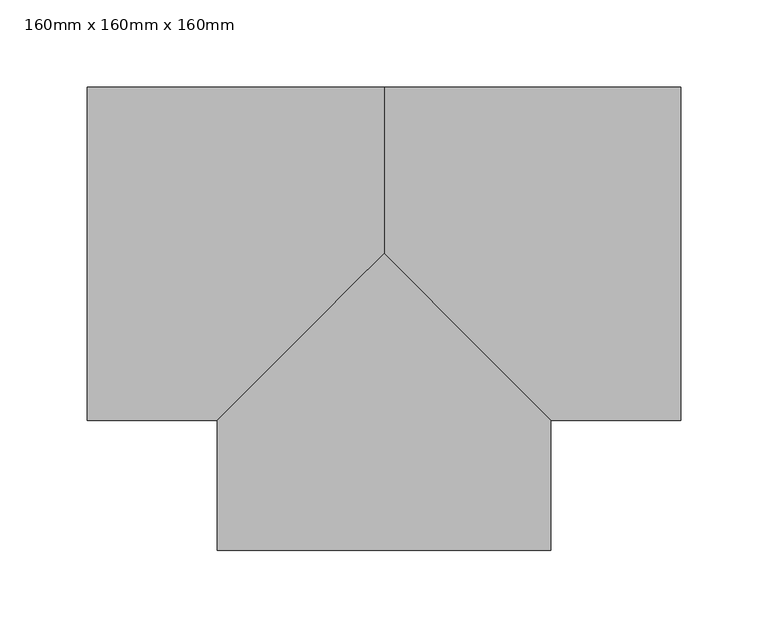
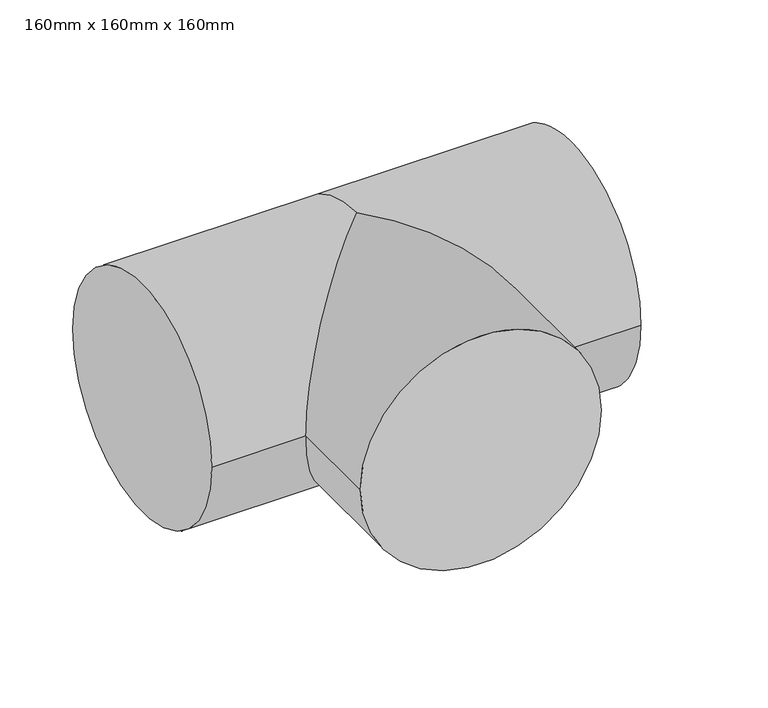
"""IFC4 building model written with IfcOpenShell, lengths in millimetres: pipe fitting geometry, PipeFitting_HTA_CPVC_Tees90° : 160mm x 160mm x 160mm."""

import ifcopenshell
import ifcopenshell.guid

model = None  # the IFC model being written
_history = None  # IfcOwnerHistory: only IFC2X3 demands one
_inside = {}  # id of a spatial element -> (the spatial element, [elements in it])
_under = {}  # id of a project, library or spatial element -> (it, [spatial elements below it])
_declared = {}  # id of a project -> (the project, [libraries it declares])
_typed = {}  # id of a type object -> (the type object, [elements of that type])
_made_of = {}  # id of a material, layer set ... -> (it, [elements and type objects made of it])


def new_model(schema):
    """Start an empty IFC model of exactly this schema.

    Asked for "IFC4X3", IfcOpenShell would pick the latest addendum, in which some entities
    have other attributes; the version numbers below select the first issue.
    IFC2X3 requires an IfcOwnerHistory on every rooted entity: one is made here for all.
    """
    global model, _history
    if schema == "IFC4X3":
        model = ifcopenshell.file(schema_version=(4, 3, 0, 0))
    else:
        model = ifcopenshell.file(schema=schema)
    _inside.clear()
    _under.clear()
    _declared.clear()
    _typed.clear()
    _made_of.clear()
    _history = None
    if model.schema == "IFC2X3":
        org = make("IfcOrganization", Name="unknown")
        user = make(
            "IfcPersonAndOrganization",
            ThePerson=make("IfcPerson", FamilyName="unknown"),
            TheOrganization=org,
        )
        app = make(
            "IfcApplication",
            ApplicationDeveloper=org,
            Version="unknown",
            ApplicationFullName="unknown",
            ApplicationIdentifier="unknown",
        )
        _history = make(
            "IfcOwnerHistory",
            OwningUser=user,
            OwningApplication=app,
            ChangeAction="ADDED",
            CreationDate=0,
        )
    return model


def make(cls, **values):
    """One entity of the class cls with the attributes given. An attribute that is None is left unset."""
    return model.create_entity(
        cls, **{name: value for name, value in values.items() if value is not None}
    )


def rooted(cls, **values):
    """An entity with a GlobalId (a new one), such as an element, a storey or a relation."""
    return make(cls, GlobalId=ifcopenshell.guid.new(), OwnerHistory=_history, **values)


def si_unit(unit_type, name, prefix=None):
    """IfcSIUnit, for example si_unit("LENGTHUNIT", "METRE", prefix="MILLI")."""
    return make("IfcSIUnit", UnitType=unit_type, Prefix=prefix, Name=name)


def assignment(units):
    """IfcUnitAssignment: the units of a project."""
    return None if units is None else make("IfcUnitAssignment", Units=units)


def point(xyz):
    """IfcCartesianPoint."""
    return None if xyz is None else make("IfcCartesianPoint", Coordinates=xyz)


def direction(xyz):
    """IfcDirection."""
    return None if xyz is None else make("IfcDirection", DirectionRatios=xyz)


def frame(location, z_axis=None, x_axis=None):
    """IfcAxis2Placement3D, a coordinate frame: its origin and axes. An axis left out is left unset."""
    return make(
        "IfcAxis2Placement3D",
        Location=point(location),
        Axis=direction(z_axis),
        RefDirection=direction(x_axis),
    )


def origin():
    """The frame at (0, 0, 0) with its axes left unset."""
    return frame((0.0, 0.0, 0.0))


def place(relative_to, where):
    """IfcLocalPlacement: puts the frame where relative to a parent placement (None: the world)."""
    return make(
        "IfcLocalPlacement", PlacementRelTo=relative_to, RelativePlacement=where
    )


def context(
    kind, dimensions, precision=None, world=None, true_north=None, identifier=None
):
    """IfcGeometricRepresentationContext, for example the 3D "Model" context."""
    return make(
        "IfcGeometricRepresentationContext",
        ContextIdentifier=identifier,
        ContextType=kind,
        CoordinateSpaceDimension=dimensions,
        Precision=precision,
        WorldCoordinateSystem=world,
        TrueNorth=true_north,
    )


def project(units=None, contexts=None):
    """IfcProject with its units and contexts."""
    return rooted(
        "IfcProject",
        Name="project",
        RepresentationContexts=contexts,
        UnitsInContext=assignment(units),
    )


def spatial(cls, under=None, at=None, **own):
    """A site, building, storey or space (cls), placed at a placement, below another one or the project."""
    s = rooted(cls, ObjectPlacement=at, **own)
    if under is not None:
        _under.setdefault(under.id(), (under, []))[1].append(s)
    return s


def circle_curve(where, radius):
    """IfcCircle in the frame where."""
    return make("IfcCircle", Position=where, Radius=radius)


def ellipse_curve(where, semi_axis1, semi_axis2):
    """IfcEllipse in the frame where."""
    return make(
        "IfcEllipse", Position=where, SemiAxis1=semi_axis1, SemiAxis2=semi_axis2
    )


def shape(context_of_items, identifier, shape_type, items):
    """IfcShapeRepresentation: the items that make up one representation, for example the "Body"."""
    return make(
        "IfcShapeRepresentation",
        ContextOfItems=context_of_items,
        RepresentationIdentifier=identifier,
        RepresentationType=shape_type,
        Items=items,
    )


def source(mapping_origin, context_of_items, identifier, shape_type, items):
    """IfcRepresentationMap: a shape defined once, which mapped items show again and again."""
    return make(
        "IfcRepresentationMap",
        MappingOrigin=mapping_origin,
        MappedRepresentation=shape(context_of_items, identifier, shape_type, items),
    )


def transform(
    local_origin,
    x_axis=None,
    y_axis=None,
    z_axis=None,
    scale=None,
    scale2=None,
    scale3=None,
    uniform=True,
):
    """IfcCartesianTransformationOperator3D, or its non-uniform kind. x_axis, y_axis, z_axis: its Axis1, 2, 3."""
    if uniform:
        return make(
            "IfcCartesianTransformationOperator3D",
            Axis1=direction(x_axis),
            Axis2=direction(y_axis),
            LocalOrigin=point(local_origin),
            Scale=scale,
            Axis3=direction(z_axis),
        )
    return make(
        "IfcCartesianTransformationOperator3DnonUniform",
        Axis1=direction(x_axis),
        Axis2=direction(y_axis),
        LocalOrigin=point(local_origin),
        Scale=scale,
        Axis3=direction(z_axis),
        Scale2=scale2,
        Scale3=scale3,
    )


def mapped(mapping_source, mapping_target):
    """IfcMappedItem: shows the shape of a source again, moved by a transform."""
    return make(
        "IfcMappedItem", MappingSource=mapping_source, MappingTarget=mapping_target
    )


def made_of(thing, what):
    """Note that an element or type object is made of a material, layer set ...; save() writes the relation."""
    if what is not None:
        _made_of.setdefault(what.id(), (what, []))[1].append(thing)
    return thing


def element(
    cls,
    number,
    at=None,
    inside=None,
    cuts=None,
    type_object=None,
    material=None,
    context=None,
    identifier="Body",
    shape_type=None,
    held_by="IfcProductDefinitionShape",
    body=None,
    shapes=None,
    **own,
):
    """One element of the class cls, such as IfcWall. Its Tag is "e" and its number.

    at: its placement. inside: the storey or other place that contains it. cuts: it is an
    opening in that element (IfcRelVoidsElement). A single representation is given by context,
    identifier, shape_type and body (its items); several are given by shapes. held_by: the class
    of the entity that holds the representations. save() writes the other relations.
    """
    e = rooted(cls, Tag="e%d" % number, ObjectPlacement=at, **own)
    if body is not None:
        shapes = [shape(context, identifier, shape_type, body)]
    if shapes is not None:
        e.Representation = make(held_by, Representations=shapes)
    if inside is not None:
        _inside.setdefault(inside.id(), (inside, []))[1].append(e)
    if cuts is not None:
        rooted(
            "IfcRelVoidsElement", RelatingBuildingElement=cuts, RelatedOpeningElement=e
        )
    if type_object is not None:
        _typed.setdefault(type_object.id(), (type_object, []))[1].append(e)
    return made_of(e, material)


def aggregate(whole, parts):
    """IfcRelAggregates: a whole, such as a stair, and the parts it consists of."""
    return rooted("IfcRelAggregates", RelatingObject=whole, RelatedObjects=parts)


def save(model, path):
    """Write the relations noted so far, then the file.

    IfcRelAggregates (storeys below a building ...), IfcRelContainedInSpatialStructure (elements
    in a storey), IfcRelDefinesByType, IfcRelAssociatesMaterial and IfcRelDeclares: one each for
    every whole, place, type object, material and project.
    """
    for whole, parts in _under.values():
        aggregate(whole, parts)
    for where, things in _inside.values():
        rooted(
            "IfcRelContainedInSpatialStructure",
            RelatedElements=things,
            RelatingStructure=where,
        )
    for kind, things in _typed.values():
        rooted("IfcRelDefinesByType", RelatedObjects=things, RelatingType=kind)
    for what, things in _made_of.values():
        rooted("IfcRelAssociatesMaterial", RelatedObjects=things, RelatingMaterial=what)
    for by, libraries in _declared.values():
        rooted("IfcRelDeclares", RelatingContext=by, RelatedDefinitions=libraries)
    model.write(path)


def plane_surface(at):
    """IfcPlane: the flat surface through the origin of the frame at, square to its z axis."""
    return make("IfcPlane", Position=at)


def cylinder_surface(at, radius):
    """IfcCylindricalSurface: all points at the distance radius from the z axis of the frame at."""
    return make("IfcCylindricalSurface", Position=at, Radius=radius)


def advanced_brep(points, edges, surfaces, faces):
    """IfcAdvancedBrep: a solid bounded by faces that lie on surfaces and meet in shared edges.

    An edge is (start, end): straight between two places in points (the first is 0);
    or (start, end, curve); or (start, end, curve, False) where it runs against its curve.
    A face is (place in surfaces, loops), or (place, loops, False) where it looks against
    its surface's normal. A loop lists edges by number (the first is 1), with a minus sign
    where the edge is run from its end to its start. The first loop is the outer one.
    """
    corners = [point(p) for p in points]
    vertices = [make("IfcVertexPoint", VertexGeometry=c) for c in corners]
    made = []
    for start, end, *more in edges:
        made.append(
            make(
                "IfcEdgeCurve",
                EdgeStart=vertices[start],
                EdgeEnd=vertices[end],
                EdgeGeometry=more[0] if more else make("IfcPolyline", Points=[corners[start], corners[end]]),
                SameSense=more[1] if len(more) > 1 else True,
            )
        )
    hull = []
    for where, loops, *sense in faces:
        bounds = []
        for j, loop in enumerate(loops):
            ring = [make("IfcOrientedEdge", EdgeElement=made[abs(k) - 1], Orientation=k > 0) for k in loop]
            bounds.append(
                make(
                    "IfcFaceOuterBound" if j == 0 else "IfcFaceBound",
                    Bound=make("IfcEdgeLoop", EdgeList=ring),
                    Orientation=True,
                )
            )
        hull.append(make("IfcAdvancedFace", Bounds=bounds, FaceSurface=surfaces[where], SameSense=sense[0] if sense else True))
    return make("IfcAdvancedBrep", Outer=make("IfcClosedShell", CfsFaces=hull))


def pipe_fitting_160mm_x_160mm_x_160mm_1a010c1b(model_context):
    return source(origin(), model_context, "Body", "AdvancedBrep", [
        advanced_brep(
        [(-95.5, -170.0, 0.0), (95.5, -170.0, 0.0), (95.5, -95.5, 0.0), (0.0, 0.0, 95.5), (-95.5, -95.5, 0.0), (0.0, 0.0, -95.5), (-170.0, -95.5, 0.0), (-170.0, 95.5, 0.0), (0.0, 95.5, 0.0), (170.0, -95.5, 0.0), (170.0, 95.5, 0.0)],
        [
            (0, 1, circle_curve(frame((0.0, -170.0, 0.0), z_axis=(0.0, -1.0, 0.0), x_axis=(1.0, 0.0, 0.0)), 95.5)),
            (1, 0, circle_curve(frame((0.0, -170.0, 0.0), z_axis=(0.0, -1.0, 0.0), x_axis=(1.0, 0.0, 0.0)), 95.5)),
            (1, 2),
            (2, 3, ellipse_curve(frame((0.0, 0.0, 0.0), z_axis=(-0.7071067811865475, -0.7071067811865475, 0.0), x_axis=(-0.7071067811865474, 0.7071067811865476, 0.0)), 135.0573952, 95.5)),
            (3, 4, ellipse_curve(frame((0.0, 0.0, 0.0), z_axis=(0.7071067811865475, -0.7071067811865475, 0.0), x_axis=(0.7071067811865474, 0.7071067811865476, 0.0)), 135.0573952, 95.5)),
            (4, 0),
            (4, 5, ellipse_curve(frame((0.0, 0.0, 0.0), z_axis=(0.7071067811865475, -0.7071067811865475, 0.0), x_axis=(0.7071067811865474, 0.7071067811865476, 0.0)), 135.0573952, 95.5)),
            (5, 2, ellipse_curve(frame((0.0, 0.0, 0.0), z_axis=(-0.7071067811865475, -0.7071067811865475, 0.0), x_axis=(-0.7071067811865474, 0.7071067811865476, 0.0)), 135.0573952, 95.5)),
            (6, 7, circle_curve(frame((-170.0, 0.0, 0.0), z_axis=(-1.0, 0.0, 0.0), x_axis=(0.0, 1.0, 0.0)), 95.5)),
            (7, 6, circle_curve(frame((-170.0, 0.0, 0.0), z_axis=(-1.0, 0.0, 0.0), x_axis=(0.0, 1.0, 0.0)), 95.5)),
            (6, 4),
            (3, 8, circle_curve(frame((0.0, 0.0, 0.0), z_axis=(-1.0, 0.0, 0.0), x_axis=(0.0, 1.0, 0.0)), 95.5)),
            (8, 7),
            (8, 5, circle_curve(frame((0.0, 0.0, 0.0), z_axis=(-1.0, 0.0, 0.0), x_axis=(0.0, 1.0, 0.0)), 95.5)),
            (9, 10, circle_curve(frame((170.0, 0.0, 0.0), z_axis=(1.0, 0.0, 0.0), x_axis=(0.0, 1.0, 0.0)), 95.5)),
            (10, 9, circle_curve(frame((170.0, 0.0, 0.0), z_axis=(1.0, 0.0, 0.0), x_axis=(0.0, 1.0, 0.0)), 95.5)),
            (10, 8),
            (2, 9),
        ],
        [
            plane_surface(frame((0.0, -170.0, 0.0), z_axis=(0.0, -1.0, 0.0), x_axis=(0.0, 0.0, 1.0))),
            cylinder_surface(frame((0.0, 0.0, 0.0), z_axis=(0.0, 1.0, 0.0), x_axis=(1.0, 0.0, 0.0)), 95.5),
            plane_surface(frame((-170.0, 0.0, 0.0), z_axis=(-1.0, 0.0, 0.0), x_axis=(0.0, 0.0, 1.0))),
            cylinder_surface(frame((-170.0, 0.0, 0.0), z_axis=(-1.0, 0.0, 0.0), x_axis=(0.0, 1.0, 0.0)), 95.5),
            plane_surface(frame((170.0, 0.0, 0.0), z_axis=(1.0, 0.0, 0.0), x_axis=(0.0, 0.0, 1.0))),
            cylinder_surface(frame((0.0, 0.0, 0.0), z_axis=(-1.0, 0.0, 0.0), x_axis=(0.0, 1.0, 0.0)), 95.5),
        ],
        [
            (0, [[1, 2]]),
            (1, [[-2, 3, 4, 5, 6]]),
            (1, [[-1, -6, 7, 8, -3]]),
            (2, [[9, 10]]),
            (3, [[-9, 11, -5, 12, 13]]),
            (3, [[-10, -13, 14, -7, -11]]),
            (4, [[15, 16]]),
            (5, [[-16, 17, -12, -4, 18]]),
            (5, [[-15, -18, -8, -14, -17]]),
        ],
    ),
    ])


if __name__ == "__main__":
    model = new_model("IFC4")
    model_context = context("Model", 3, world=origin())
    ifc_project = project(units=[si_unit("LENGTHUNIT", "METRE", prefix="MILLI")], contexts=[model_context])
    site = spatial("IfcSite", under=ifc_project)
    building = spatial("IfcBuilding", under=site)
    placement = place(None, origin())
    pipe_fitting_160mm_x_160mm_x_160mm_shape = pipe_fitting_160mm_x_160mm_x_160mm_1a010c1b(model_context)
    element("IfcPipeFitting", 1, ObjectType="PipeFitting_HTA_CPVC_Tees90° : 160mm x 160mm x 160mm", at=placement, inside=building, context=model_context, shape_type="MappedRepresentation", body=[
        mapped(pipe_fitting_160mm_x_160mm_x_160mm_shape, transform((0.0, 0.0, 0.0), x_axis=(1.0, 0.0, 0.0), y_axis=(0.0, 1.0, 0.0), z_axis=(0.0, 0.0, 1.0))),
    ])
    save(model, "model.ifc")
